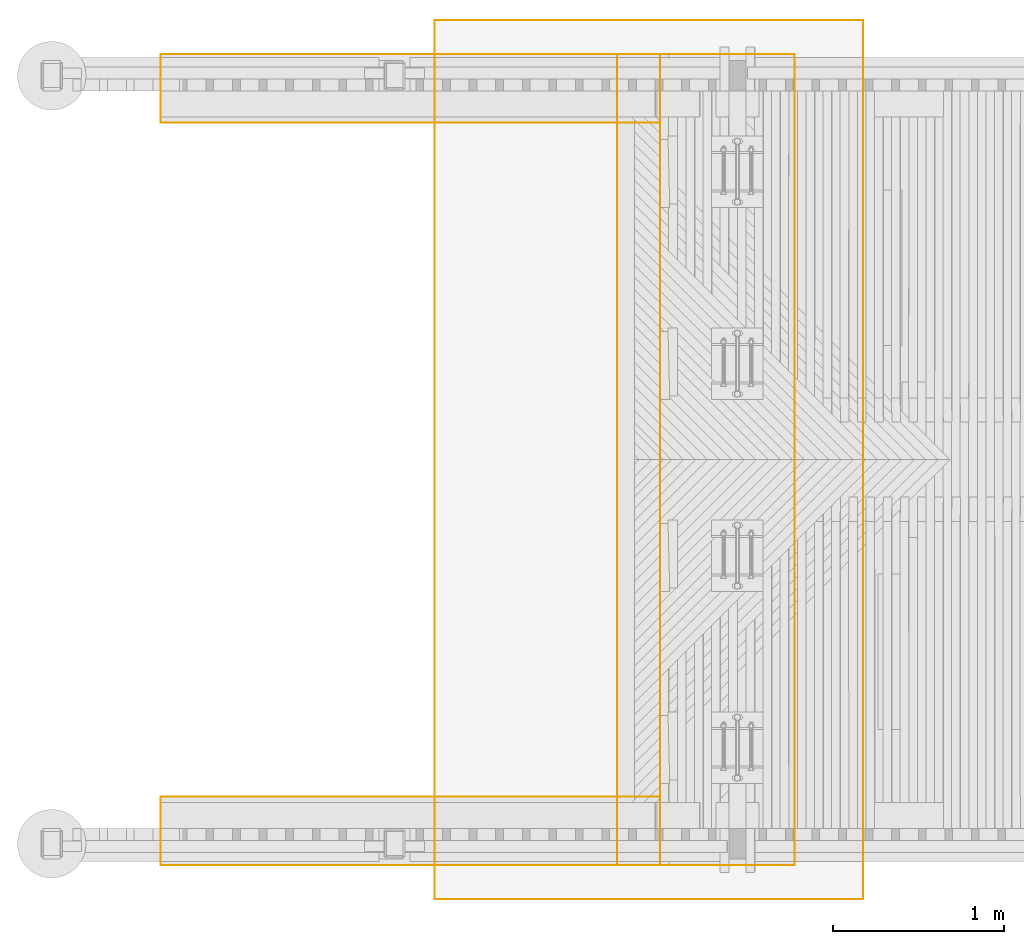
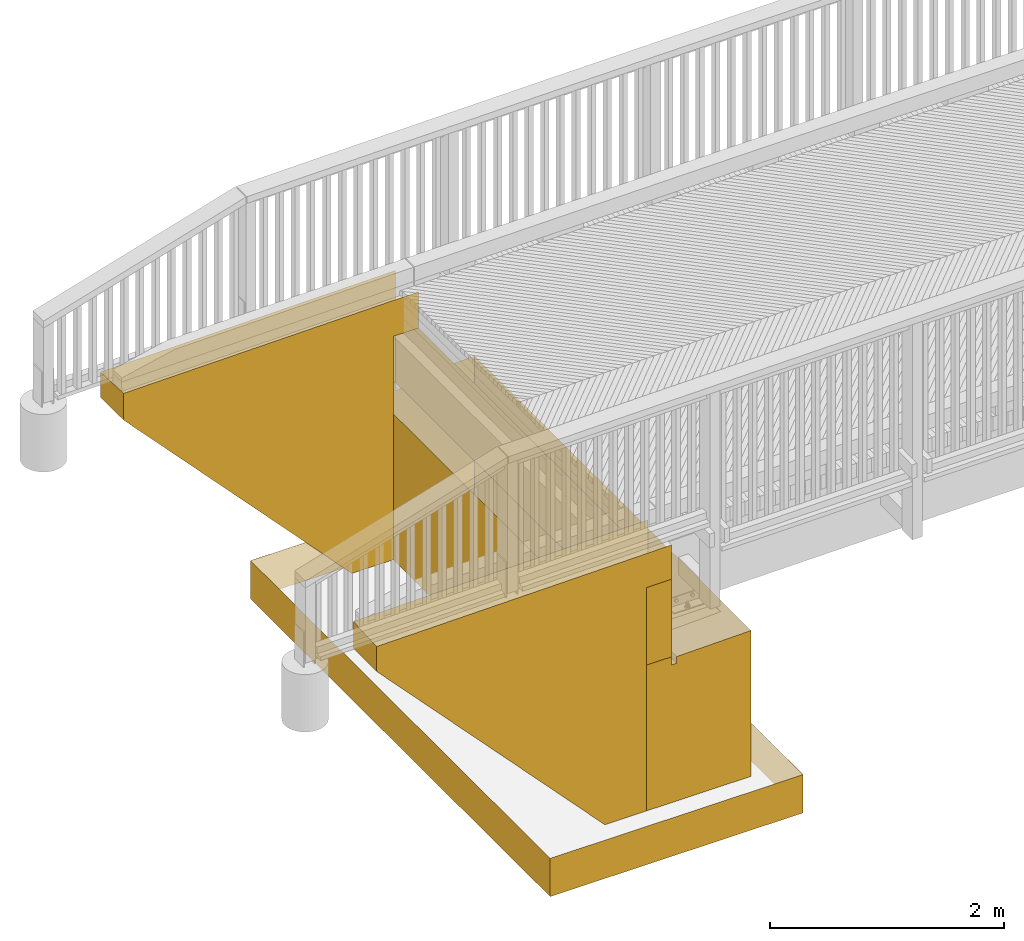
# One storey, part 52 of 52: 20 coverings.
"""IFC2X3 building model written with IfcOpenShell, lengths in millimetres."""

from ifc_helpers import new_model, si_unit, frame, origin_with_axes, place, context, subcontext, project, spatial, open_shell, surface_model, material, element, save


model = new_model("IFC2X3")

# Units and contexts
model_context = context("Model", 3, precision=1e-05, world=origin_with_axes())
body_context = subcontext(model_context, "Body", "Model", "MODEL_VIEW")
ifc_project = project(units=[si_unit("LENGTHUNIT", "METRE", prefix="MILLI"), si_unit("AREAUNIT", "SQUARE_METRE"), si_unit("VOLUMEUNIT", "CUBIC_METRE"), si_unit("MASSUNIT", "GRAM", prefix="KILO"), si_unit("TIMEUNIT", "SECOND"), si_unit("PLANEANGLEUNIT", "RADIAN"), si_unit("SOLIDANGLEUNIT", "STERADIAN"), si_unit("THERMODYNAMICTEMPERATUREUNIT", "DEGREE_CELSIUS"), si_unit("LUMINOUSINTENSITYUNIT", "LUMEN")], contexts=[model_context])

# Site, building, storey
site_placement = place(None, origin_with_axes())
site = spatial("IfcSite", under=ifc_project, at=site_placement, Name="Undefined", CompositionType="ELEMENT")
building_placement = place(site_placement, origin_with_axes())
building = spatial("IfcBuilding", under=site, at=building_placement, Name="Undefined", CompositionType="ELEMENT")
storey_placement = place(building_placement, origin_with_axes())
storey = spatial("IfcBuildingStorey", under=building, at=storey_placement, Name="Undefined", CompositionType="ELEMENT", Elevation=0.0)

# Coverings
ifc_material = material(Name="Undefined/Undefined")
covering_1_placement = place(storey_placement, frame((-182.5, 4.54747350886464e-13, 1162.0), z_axis=(0.0, 0.0, 1.0), x_axis=(0.0, 1.0, 0.0)))
element("IfcCovering", 1, at=covering_1_placement, inside=storey, material=ifc_material, Name="SurfaceObject", PredefinedType="NOTDEFINED", context=body_context, shape_type="SurfaceModel", body=[
    surface_model("IfcShellBasedSurfaceModel", [(4730.0, 217.500000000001, 747.0), (4730.0, 217.5, 676.997414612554), (4730.0, 267.5, 676.997414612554), (4730.0, 267.5, 762.0), (4730.0, 517.5, 762.0), (4730.0, 517.5, -762.0), (4730.0, -517.5, -762.0), (4730.0, -517.5, 762.0)], [open_shell([[[0, 1, 2, 3, 4, 5, 6, 7]]])]),
])
covering_2_placement = place(storey_placement, frame((-182.5, 4.54747350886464e-13, 1162.0), z_axis=(0.0, 0.0, 1.0), x_axis=(0.0, 1.0, 0.0)))
element("IfcCovering", 2, at=covering_2_placement, inside=storey, material=ifc_material, Name="SurfaceObject", PredefinedType="NOTDEFINED", context=body_context, shape_type="SurfaceModel", body=[
    surface_model("IfcShellBasedSurfaceModel", [(0.0, -517.5, 762.0), (4730.0, -517.5, 762.0), (4730.0, -517.5, -762.0), (0.0, -517.5, -762.0)], [open_shell([[[0, 1, 2, 3]]])]),
])
covering_3_placement = place(storey_placement, frame((-182.5, 4.54747350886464e-13, 1162.0), z_axis=(0.0, 0.0, 1.0), x_axis=(0.0, 1.0, 0.0)))
element("IfcCovering", 3, at=covering_3_placement, inside=storey, material=ifc_material, Name="SurfaceObject", PredefinedType="NOTDEFINED", context=body_context, shape_type="SurfaceModel", body=[
    surface_model("IfcShellBasedSurfaceModel", [(0.0, 217.5, 747.0), (0.0, -517.5, 762.0), (0.0, -517.5, -762.0), (0.0, 517.5, -762.0), (0.0, 517.5, 762.0), (0.0, 267.5, 762.0), (0.0, 267.5, 676.997414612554), (0.0, 217.5, 676.997414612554)], [open_shell([[[0, 1, 2, 3, 4, 5, 6, 7]]])]),
])
covering_4_placement = place(storey_placement, frame((-182.5, 4.54747350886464e-13, 1162.0), z_axis=(0.0, 0.0, 1.0), x_axis=(0.0, 1.0, 0.0)))
element("IfcCovering", 4, at=covering_4_placement, inside=storey, material=ifc_material, Name="SurfaceObject", PredefinedType="NOTDEFINED", context=body_context, shape_type="SurfaceModel", body=[
    surface_model("IfcShellBasedSurfaceModel", [(4730.0, 517.5, -762.0), (4730.0, 517.5, 762.0), (0.0, 517.5, 762.0), (0.0, 517.5, -762.0)], [open_shell([[[0, 1, 2, 3]]])]),
])
covering_5_placement = place(storey_placement, frame((-426.959553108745, 4530.0, 1712.7196064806), z_axis=(-0.0164574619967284, 0.0, 0.999864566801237), x_axis=(-0.999864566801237, 0.0, -0.0164574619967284)))
element("IfcCovering", 5, at=covering_5_placement, inside=storey, material=ifc_material, Name="SurfaceObject", PredefinedType="NOTDEFINED", context=body_context, shape_type="SurfaceModel", body=[
    surface_model("IfcShellBasedSurfaceModel", [(0.329181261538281, -199.999999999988, 1380.00073662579), (2915.60814438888, -200.0, 1387.04088785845), (2919.88805766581, -200.0, 1127.01697679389), (703.699061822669, -200.0, -1301.31474713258), (294.607501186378, -200.0, -1308.04826788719), (256.195784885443, -199.999999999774, 1025.63563102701), (6.22964318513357, -199.999999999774, 1021.52126552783)], [open_shell([[[0, 1, 2, 3, 4, 5, 6]]])]),
])
for number, where, z_axis, x_axis, name in (
    (6, (-430.340033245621, 4530.0, 1712.66804762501), (-0.0140428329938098, 0.0, 0.999901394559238), (-0.999901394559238, 0.0, -0.0140428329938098), "SurfaceObject"),
    (7, (-430.340033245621, 4530.0, 1712.66804762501), (-0.0140428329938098, 0.0, 0.999901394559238), (-0.999901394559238, 0.0, -0.0140428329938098), "SurfaceObject"),
):
    element("IfcCovering", number, at=place(storey_placement, frame(where, z_axis=z_axis, x_axis=x_axis)), inside=storey, material=ifc_material, Name=name, PredefinedType="NOTDEFINED", context=body_context, shape_type="SurfaceModel", body=[
        surface_model("IfcShellBasedSurfaceModel", [(2915.56834818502, -200.0, 1380.0), (2915.28746382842, 200.0, 1400.0), (2919.22031514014, 200.0, 1119.96651154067), (2919.22031514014, -200.0, 1119.96651154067)], [open_shell([[[0, 1, 2, 3]]])]),
    ])
for number, where, z_axis, x_axis, name in (
    (8, (-426.959553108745, 4530.0, 1712.7196064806), (-0.0164574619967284, 0.0, 0.999864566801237), (-0.999864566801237, 0.0, -0.0164574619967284), "SurfaceObject"),
    (9, (-426.959553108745, 4530.0, 1712.7196064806), (-0.0164574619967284, 0.0, 0.999864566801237), (-0.999864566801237, 0.0, -0.0164574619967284), "SurfaceObject"),
):
    element("IfcCovering", number, at=place(storey_placement, frame(where, z_axis=z_axis, x_axis=x_axis)), inside=storey, material=ifc_material, Name=name, PredefinedType="NOTDEFINED", context=body_context, shape_type="SurfaceModel", body=[
        surface_model("IfcShellBasedSurfaceModel", [(5.63100911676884e-07, 200.0, 1400.0), (6.22964318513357, 200.0, 1021.52126552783), (256.195784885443, 200.0, 1025.63563102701), (294.607501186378, 200.0, -1308.04826788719), (703.699061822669, 200.0, -1301.31474713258), (2919.88805766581, 200.0, 1127.01697679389), (2915.27896268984, 200.0, 1407.04015123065)], [open_shell([[[0, 1, 2, 3, 4, 5, 6]]])]),
    ])
covering_6_placement = place(storey_placement, frame((-426.959553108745, 200.0, 1712.7196064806), z_axis=(-0.0164574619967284, 0.0, 0.999864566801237), x_axis=(-0.999864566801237, 0.0, -0.0164574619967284)))
element("IfcCovering", 10, at=covering_6_placement, inside=storey, material=ifc_material, Name="SurfaceObject", PredefinedType="NOTDEFINED", context=body_context, shape_type="SurfaceModel", body=[
    surface_model("IfcShellBasedSurfaceModel", [(6.22964318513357, -199.999999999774, 1021.52126552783), (3.63797880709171e-12, -200.0, 1400.0), (2915.27896268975, -200.0, 1407.04015123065), (2919.88805766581, -200.0, 1127.01697679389), (703.699061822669, -200.0, -1301.31474713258), (294.607501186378, -200.0, -1308.04826788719), (256.195784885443, -199.999999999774, 1025.63563102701)], [open_shell([[[0, 1, 2, 3, 4, 5, 6]]])]),
])
for number, where, z_axis, x_axis, name in (
    (11, (-430.340033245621, 200.0, 1712.66804762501), (-0.0140428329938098, 0.0, 0.999901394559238), (-0.999901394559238, 0.0, -0.0140428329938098), "SurfaceObject"),
    (12, (-430.340033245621, 200.0, 1712.66804762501), (-0.0140428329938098, 0.0, 0.999901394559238), (-0.999901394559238, 0.0, -0.0140428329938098), "SurfaceObject"),
):
    element("IfcCovering", number, at=place(storey_placement, frame(where, z_axis=z_axis, x_axis=x_axis)), inside=storey, material=ifc_material, Name=name, PredefinedType="NOTDEFINED", context=body_context, shape_type="SurfaceModel", body=[
        surface_model("IfcShellBasedSurfaceModel", [(2915.2874638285, -200.0, 1400.0), (2915.5683481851, 200.0, 1380.0), (2919.22031514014, 200.0, 1119.96651154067), (2919.22031514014, -200.0, 1119.96651154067)], [open_shell([[[0, 1, 2, 3]]])]),
    ])
covering_7_placement = place(storey_placement, frame((-426.959553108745, 200.0, 1712.7196064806), z_axis=(-0.0164574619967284, 0.0, 0.999864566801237), x_axis=(-0.999864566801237, 0.0, -0.0164574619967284)))
element("IfcCovering", 13, at=covering_7_placement, inside=storey, material=ifc_material, Name="SurfaceObject", PredefinedType="NOTDEFINED", context=body_context, shape_type="SurfaceModel", body=[
    surface_model("IfcShellBasedSurfaceModel", [(2915.6081443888, 200.0, 1387.04088785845), (0.3291817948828, 200.000000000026, 1380.00073662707), (6.22964318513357, 200.0, 1021.52126552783), (256.195784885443, 200.0, 1025.63563102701), (294.607501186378, 200.0, -1308.04826788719), (703.699061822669, 200.0, -1301.31474713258), (2919.88805766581, 200.0, 1127.01697679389)], [open_shell([[[0, 1, 2, 3, 4, 5, 6]]])]),
])
covering_8_placement = place(storey_placement, frame((-575.0, 0.0, 2329.0), z_axis=(0.0, 0.0, 1.0), x_axis=(0.0, 1.0, 0.0)))
element("IfcCovering", 14, at=covering_8_placement, inside=storey, material=ifc_material, Name="SurfaceObject", PredefinedType="NOTDEFINED", context=body_context, shape_type="SurfaceModel", body=[
    surface_model("IfcShellBasedSurfaceModel", [(0.0, 125.0, -405.0), (0.0, 125.0, 405.0), (0.0, -125.0, 405.0), (0.0, -125.0, -405.0)], [open_shell([[[0, 1, 2, 3]]])]),
])
covering_9_placement = place(storey_placement, frame((-575.0, 0.0, 2329.0), z_axis=(0.0, 0.0, 1.0), x_axis=(0.0, 1.0, 0.0)))
element("IfcCovering", 15, at=covering_9_placement, inside=storey, material=ifc_material, Name="SurfaceObject", PredefinedType="NOTDEFINED", context=body_context, shape_type="SurfaceModel", body=[
    surface_model("IfcShellBasedSurfaceModel", [(4730.0, -125.0, 405.0), (4730.0, -125.0, -405.0), (0.0, -125.0, -405.0), (0.0, -125.0, 405.0)], [open_shell([[[0, 1, 2, 3]]])]),
])
covering_10_placement = place(storey_placement, frame((-575.0, 0.0, 2329.0), z_axis=(0.0, 0.0, 1.0), x_axis=(0.0, 1.0, 0.0)))
element("IfcCovering", 16, at=covering_10_placement, inside=storey, material=ifc_material, Name="SurfaceObject", PredefinedType="NOTDEFINED", context=body_context, shape_type="SurfaceModel", body=[
    surface_model("IfcShellBasedSurfaceModel", [(4730.0, 125.0, 405.0), (4730.0, 125.0, -405.0), (4730.0, -125.0, -405.0), (4730.0, -125.0, 405.0)], [open_shell([[[0, 1, 2, 3]]])]),
])
covering_11_placement = place(storey_placement, frame((-1765.0, 4930.0, 200.0), z_axis=(1.0, 0.0, 0.0), x_axis=(0.0, -1.0, 0.0)))
element("IfcCovering", 17, at=covering_11_placement, inside=storey, material=ifc_material, Name="SurfaceObject", PredefinedType="NOTDEFINED", context=body_context, shape_type="SurfaceModel", body=[
    surface_model("IfcShellBasedSurfaceModel", [(5130.0, 200.0, 2500.0), (5130.0, 200.0, 0.0), (5130.0, -200.0, 0.0), (5130.0, -200.0, 2500.0)], [open_shell([[[0, 1, 2, 3]]])]),
])
covering_12_placement = place(storey_placement, frame((-1765.0, 4930.0, 200.0), z_axis=(1.0, 0.0, 0.0), x_axis=(0.0, -1.0, 0.0)))
element("IfcCovering", 18, at=covering_12_placement, inside=storey, material=ifc_material, Name="SurfaceObject", PredefinedType="NOTDEFINED", context=body_context, shape_type="SurfaceModel", body=[
    surface_model("IfcShellBasedSurfaceModel", [(5130.0, 200.0, 0.0), (0.0, 200.0, 0.0), (0.0, -200.0, 0.0), (5130.0, -200.0, 0.0)], [open_shell([[[0, 1, 2, 3]]])]),
])
covering_13_placement = place(storey_placement, frame((-1765.0, 4930.0, 200.0), z_axis=(1.0, 0.0, 0.0), x_axis=(0.0, -1.0, 0.0)))
element("IfcCovering", 19, at=covering_13_placement, inside=storey, material=ifc_material, Name="SurfaceObject", PredefinedType="NOTDEFINED", context=body_context, shape_type="SurfaceModel", body=[
    surface_model("IfcShellBasedSurfaceModel", [(0.0, 200.0, 2500.0), (5130.0, 200.0, 2500.0), (5130.0, -200.0, 2500.0), (0.0, -200.0, 2500.0)], [open_shell([[[0, 1, 2, 3]]])]),
])
covering_14_placement = place(storey_placement, frame((-1765.0, 4930.0, 200.0), z_axis=(1.0, 0.0, 0.0), x_axis=(0.0, -1.0, 0.0)))
element("IfcCovering", 20, at=covering_14_placement, inside=storey, material=ifc_material, Name="SurfaceObject", PredefinedType="NOTDEFINED", context=body_context, shape_type="SurfaceModel", body=[
    surface_model("IfcShellBasedSurfaceModel", [(0.0, 200.0, 0.0), (0.0, 200.0, 2500.0), (0.0, -200.0, 2500.0), (0.0, -200.0, 0.0)], [open_shell([[[0, 1, 2, 3]]])]),
])

save(model, "model.ifc")
